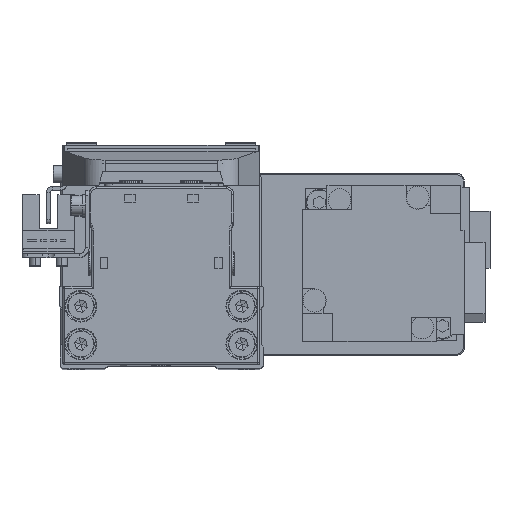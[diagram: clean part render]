
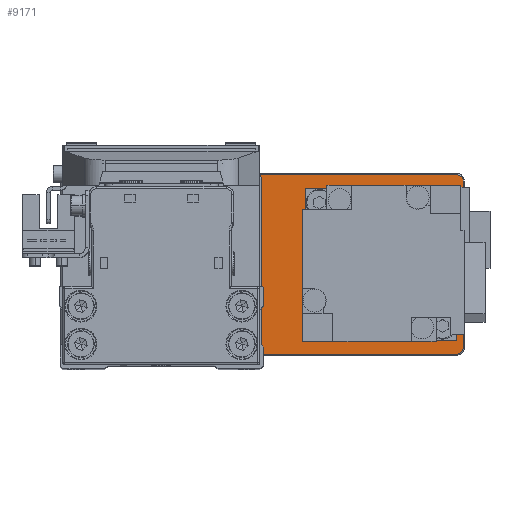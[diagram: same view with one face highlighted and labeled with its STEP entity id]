
A CAD part, top view. The second image highlights one B-rep face of the part: STEP entity #9171.
In plain terms, the highlighted planar face has unit normal (0, 0, 1).
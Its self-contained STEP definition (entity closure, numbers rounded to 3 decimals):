
#226 = CARTESIAN_POINT ( 'NONE',  ( -50., -23.7, 5. ) ) ;
#516 = AXIS2_PLACEMENT_3D ( 'NONE', #38007, #10553, #22758 ) ;
#1075 = EDGE_LOOP ( 'NONE', ( #7236, #11355 ) ) ;
#1150 = VERTEX_POINT ( 'NONE', #2280 ) ;
#1359 = FACE_BOUND ( 'NONE', #38671, .T. ) ;
#1491 = CARTESIAN_POINT ( 'NONE',  ( 50., -23.7, 5. ) ) ;
#1738 = VERTEX_POINT ( 'NONE', #4015 ) ;
#1761 = CARTESIAN_POINT ( 'NONE',  ( -28., 0., 5. ) ) ;
#1985 = DIRECTION ( 'NONE',  ( 1., 0., 0. ) ) ;
#2001 = DIRECTION ( 'NONE',  ( 0., 0., 1. ) ) ;
#2280 = CARTESIAN_POINT ( 'NONE',  ( 51.7, -22., 5. ) ) ;
#2497 = VERTEX_POINT ( 'NONE', #25722 ) ;
#2691 = CIRCLE ( 'NONE', #25055, 1.7 ) ;
#2701 = ORIENTED_EDGE ( 'NONE', *, *, #11071, .T. ) ;
#2885 = EDGE_CURVE ( 'NONE', #1150, #7319, #7056, .T. ) ;
#3008 = VERTEX_POINT ( 'NONE', #20651 ) ;
#3750 = ORIENTED_EDGE ( 'NONE', *, *, #8815, .T. ) ;
#4010 = DIRECTION ( 'NONE',  ( 1., 0., 0. ) ) ;
#4015 = CARTESIAN_POINT ( 'NONE',  ( -38.3, 0., 5. ) ) ;
#4558 = DIRECTION ( 'NONE',  ( -1., 0., 0. ) ) ;
#4946 = CARTESIAN_POINT ( 'NONE',  ( -50., -22., 5. ) ) ;
#5327 = CIRCLE ( 'NONE', #27700, 12.8 ) ;
#6416 = AXIS2_PLACEMENT_3D ( 'NONE', #37529, #10087, #22296 ) ;
#7056 = LINE ( 'NONE', #19270, #20454 ) ;
#7236 = ORIENTED_EDGE ( 'NONE', *, *, #12278, .T. ) ;
#7319 = VERTEX_POINT ( 'NONE', #23237 ) ;
#8040 = CARTESIAN_POINT ( 'NONE',  ( -51.7, 22., 5. ) ) ;
#8154 = CARTESIAN_POINT ( 'NONE',  ( -28., 0., 5. ) ) ;
#8649 = CARTESIAN_POINT ( 'NONE',  ( -51.7, -22., 5. ) ) ;
#8815 = EDGE_CURVE ( 'NONE', #7319, #11042, #10717, .T. ) ;
#9171 = ADVANCED_FACE ( 'NONE', ( #28771, #1359, #13552 ), #25767, .T. ) ;
#10087 = DIRECTION ( 'NONE',  ( 0., 0., -1. ) ) ;
#10553 = DIRECTION ( 'NONE',  ( 0., 0., 1. ) ) ;
#10584 = ORIENTED_EDGE ( 'NONE', *, *, #14428, .T. ) ;
#10717 = CIRCLE ( 'NONE', #15828, 1.7 ) ;
#11042 = VERTEX_POINT ( 'NONE', #25563 ) ;
#11071 = EDGE_CURVE ( 'NONE', #11042, #24501, #19767, .T. ) ;
#11148 = EDGE_CURVE ( 'NONE', #36557, #34713, #2691, .T. ) ;
#11355 = ORIENTED_EDGE ( 'NONE', *, *, #33757, .T. ) ;
#12077 = CIRCLE ( 'NONE', #34454, 10.3 ) ;
#12278 = EDGE_CURVE ( 'NONE', #31765, #2497, #5327, .T. ) ;
#12562 = CARTESIAN_POINT ( 'NONE',  ( -50., 22., 5. ) ) ;
#13552 = FACE_OUTER_BOUND ( 'NONE', #14869, .T. ) ;
#13675 = DIRECTION ( 'NONE',  ( 1., 0., 0. ) ) ;
#13968 = DIRECTION ( 'NONE',  ( 0., 0., -1. ) ) ;
#14207 = DIRECTION ( 'NONE',  ( 1., 0., 0. ) ) ;
#14428 = EDGE_CURVE ( 'NONE', #3008, #1150, #32381, .T. ) ;
#14869 = EDGE_LOOP ( 'NONE', ( #28369, #10584, #24707, #3750, #2701, #28764, #35867, #16322 ) ) ;
#15112 = AXIS2_PLACEMENT_3D ( 'NONE', #29425, #2001, #14207 ) ;
#15127 = EDGE_CURVE ( 'NONE', #38286, #36557, #36085, .T. ) ;
#15828 = AXIS2_PLACEMENT_3D ( 'NONE', #17197, #29411, #1985 ) ;
#16005 = CARTESIAN_POINT ( 'NONE',  ( -51.7, -22., 5. ) ) ;
#16322 = ORIENTED_EDGE ( 'NONE', *, *, #11148, .T. ) ;
#17154 = DIRECTION ( 'NONE',  ( 0., 0., 1. ) ) ;
#17170 = CARTESIAN_POINT ( 'NONE',  ( 42.8, 0., 5. ) ) ;
#17197 = CARTESIAN_POINT ( 'NONE',  ( 50., 22., 5. ) ) ;
#17775 = AXIS2_PLACEMENT_3D ( 'NONE', #1761, #13968, #26179 ) ;
#19224 = CARTESIAN_POINT ( 'NONE',  ( 30., 0., 5. ) ) ;
#19270 = CARTESIAN_POINT ( 'NONE',  ( 51.7, 22., 5. ) ) ;
#19511 = AXIS2_PLACEMENT_3D ( 'NONE', #12562, #24775, #37023 ) ;
#19721 = VECTOR ( 'NONE', #13675, 1000. ) ;
#19767 = LINE ( 'NONE', #31985, #21869 ) ;
#20360 = DIRECTION ( 'NONE',  ( 0., 0., -1. ) ) ;
#20454 = VECTOR ( 'NONE', #31490, 1000. ) ;
#20651 = CARTESIAN_POINT ( 'NONE',  ( 50., -23.7, 5. ) ) ;
#20849 = DIRECTION ( 'NONE',  ( 0., -1., 0. ) ) ;
#21869 = VECTOR ( 'NONE', #4558, 1000. ) ;
#22296 = DIRECTION ( 'NONE',  ( 1., 0., 0. ) ) ;
#22758 = DIRECTION ( 'NONE',  ( 1., 0., 0. ) ) ;
#23237 = CARTESIAN_POINT ( 'NONE',  ( 51.7, 22., 5. ) ) ;
#23668 = CIRCLE ( 'NONE', #6416, 12.8 ) ;
#24501 = VERTEX_POINT ( 'NONE', #32408 ) ;
#24707 = ORIENTED_EDGE ( 'NONE', *, *, #2885, .T. ) ;
#24775 = DIRECTION ( 'NONE',  ( 0., 0., 1. ) ) ;
#25055 = AXIS2_PLACEMENT_3D ( 'NONE', #4946, #17154, #29366 ) ;
#25563 = CARTESIAN_POINT ( 'NONE',  ( 50., 23.7, 5. ) ) ;
#25714 = EDGE_CURVE ( 'NONE', #24501, #38286, #36804, .T. ) ;
#25722 = CARTESIAN_POINT ( 'NONE',  ( 17.2, 0., 5. ) ) ;
#25767 = PLANE ( 'NONE',  #516 ) ;
#26179 = DIRECTION ( 'NONE',  ( 1., 0., 0. ) ) ;
#27628 = ORIENTED_EDGE ( 'NONE', *, *, #30493, .T. ) ;
#27700 = AXIS2_PLACEMENT_3D ( 'NONE', #19224, #31451, #4010 ) ;
#28369 = ORIENTED_EDGE ( 'NONE', *, *, #37454, .T. ) ;
#28548 = EDGE_CURVE ( 'NONE', #1738, #36454, #35051, .T. ) ;
#28764 = ORIENTED_EDGE ( 'NONE', *, *, #25714, .T. ) ;
#28771 = FACE_BOUND ( 'NONE', #1075, .T. ) ;
#28916 = LINE ( 'NONE', #1491, #19721 ) ;
#29366 = DIRECTION ( 'NONE',  ( 1., 0., 0. ) ) ;
#29411 = DIRECTION ( 'NONE',  ( 0., 0., 1. ) ) ;
#29425 = CARTESIAN_POINT ( 'NONE',  ( 50., -22., 5. ) ) ;
#30425 = CARTESIAN_POINT ( 'NONE',  ( -17.7, 0., 5. ) ) ;
#30493 = EDGE_CURVE ( 'NONE', #36454, #1738, #12077, .T. ) ;
#31451 = DIRECTION ( 'NONE',  ( 0., 0., -1. ) ) ;
#31490 = DIRECTION ( 'NONE',  ( 0., 1., 0. ) ) ;
#31765 = VERTEX_POINT ( 'NONE', #17170 ) ;
#31985 = CARTESIAN_POINT ( 'NONE',  ( -50., 23.7, 5. ) ) ;
#32381 = CIRCLE ( 'NONE', #15112, 1.7 ) ;
#32408 = CARTESIAN_POINT ( 'NONE',  ( -50., 23.7, 5. ) ) ;
#32463 = ORIENTED_EDGE ( 'NONE', *, *, #28548, .T. ) ;
#32581 = DIRECTION ( 'NONE',  ( 1., 0., 0. ) ) ;
#33757 = EDGE_CURVE ( 'NONE', #2497, #31765, #23668, .T. ) ;
#34454 = AXIS2_PLACEMENT_3D ( 'NONE', #8154, #20360, #32581 ) ;
#34713 = VERTEX_POINT ( 'NONE', #226 ) ;
#35051 = CIRCLE ( 'NONE', #17775, 10.3 ) ;
#35867 = ORIENTED_EDGE ( 'NONE', *, *, #15127, .T. ) ;
#36085 = LINE ( 'NONE', #8649, #38206 ) ;
#36454 = VERTEX_POINT ( 'NONE', #30425 ) ;
#36557 = VERTEX_POINT ( 'NONE', #16005 ) ;
#36804 = CIRCLE ( 'NONE', #19511, 1.7 ) ;
#37023 = DIRECTION ( 'NONE',  ( 1., 0., 0. ) ) ;
#37454 = EDGE_CURVE ( 'NONE', #34713, #3008, #28916, .T. ) ;
#37529 = CARTESIAN_POINT ( 'NONE',  ( 30., 0., 5. ) ) ;
#38007 = CARTESIAN_POINT ( 'NONE',  ( 0., 0., 5. ) ) ;
#38206 = VECTOR ( 'NONE', #20849, 1000. ) ;
#38286 = VERTEX_POINT ( 'NONE', #8040 ) ;
#38671 = EDGE_LOOP ( 'NONE', ( #27628, #32463 ) ) ;
